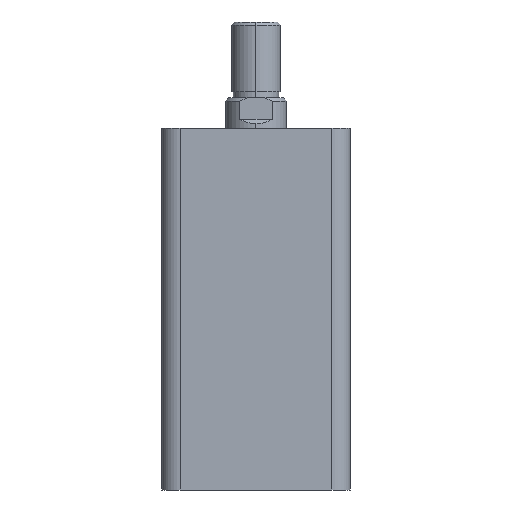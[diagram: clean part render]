
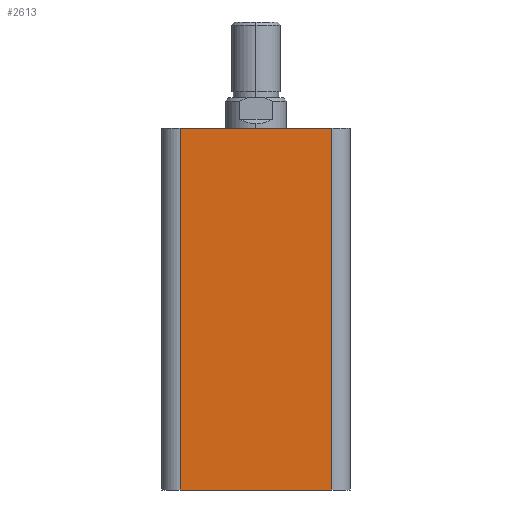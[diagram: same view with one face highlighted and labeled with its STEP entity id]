
A CAD part, left-side view. The second image highlights one B-rep face of the part: STEP entity #2613.
In plain terms, the highlighted planar face has unit normal (-1, 0, 0).
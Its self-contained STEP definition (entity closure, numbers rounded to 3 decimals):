
#282 = DIRECTION ( 'NONE',  ( 0., -1., 0. ) ) ;
#293 = CARTESIAN_POINT ( 'NONE',  ( -31., 31., 119. ) ) ;
#456 = DIRECTION ( 'NONE',  ( 0., -1., 0. ) ) ;
#458 = CARTESIAN_POINT ( 'NONE',  ( -31., 31., 0. ) ) ;
#483 = CARTESIAN_POINT ( 'NONE',  ( -31., -25., 119. ) ) ;
#484 = DIRECTION ( 'NONE',  ( 0., 0., 1. ) ) ;
#485 = CARTESIAN_POINT ( 'NONE',  ( -31., 25., 119. ) ) ;
#486 = DIRECTION ( 'NONE',  ( 0., 0., -1. ) ) ;
#1168 = CARTESIAN_POINT ( 'NONE',  ( -31., -25., 119. ) ) ;
#1188 = CARTESIAN_POINT ( 'NONE',  ( -31., 25., 0. ) ) ;
#1189 = CARTESIAN_POINT ( 'NONE',  ( -31., -25., 0. ) ) ;
#1195 = CARTESIAN_POINT ( 'NONE',  ( -31., 25., 119. ) ) ;
#2008 = LINE ( 'NONE', #293, #2011 ) ;
#2011 = VECTOR ( 'NONE', #282, 1000. ) ;
#2048 = LINE ( 'NONE', #458, #2052 ) ;
#2052 = VECTOR ( 'NONE', #456, 1000. ) ;
#2066 = LINE ( 'NONE', #483, #2069 ) ;
#2068 = LINE ( 'NONE', #485, #2071 ) ;
#2069 = VECTOR ( 'NONE', #484, 1000. ) ;
#2071 = VECTOR ( 'NONE', #486, 1000. ) ;
#2520 = AXIS2_PLACEMENT_3D ( 'NONE', #4172, #4160, #4157 ) ;
#2613 = ADVANCED_FACE ( 'NONE', ( #5166 ), #4162, .F. ) ;
#3177 = EDGE_CURVE ( 'NONE', #5074, #5045, #2008, .T. ) ;
#3212 = EDGE_CURVE ( 'NONE', #5067, #5068, #2048, .T. ) ;
#3222 = EDGE_CURVE ( 'NONE', #5068, #5045, #2066, .T. ) ;
#3223 = EDGE_CURVE ( 'NONE', #5074, #5067, #2068, .T. ) ;
#3853 = EDGE_LOOP ( 'NONE', ( #4326, #4327, #4328, #4329 ) ) ;
#4157 = DIRECTION ( 'NONE',  ( 0., 0., -1. ) ) ;
#4160 = DIRECTION ( 'NONE',  ( 1., 0., 0. ) ) ;
#4162 = PLANE ( 'NONE',  #2520 ) ;
#4172 = CARTESIAN_POINT ( 'NONE',  ( -31., 31., 119. ) ) ;
#4326 = ORIENTED_EDGE ( 'NONE', *, *, #3212, .T. ) ;
#4327 = ORIENTED_EDGE ( 'NONE', *, *, #3222, .T. ) ;
#4328 = ORIENTED_EDGE ( 'NONE', *, *, #3177, .F. ) ;
#4329 = ORIENTED_EDGE ( 'NONE', *, *, #3223, .T. ) ;
#5045 = VERTEX_POINT ( 'NONE', #1168 ) ;
#5067 = VERTEX_POINT ( 'NONE', #1188 ) ;
#5068 = VERTEX_POINT ( 'NONE', #1189 ) ;
#5074 = VERTEX_POINT ( 'NONE', #1195 ) ;
#5166 = FACE_OUTER_BOUND ( 'NONE', #3853, .T. ) ;
